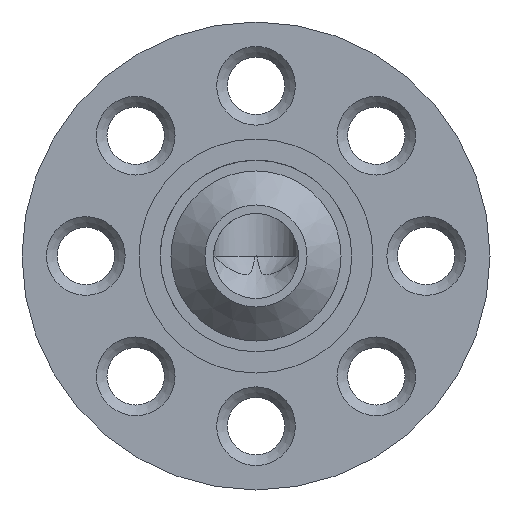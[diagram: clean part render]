
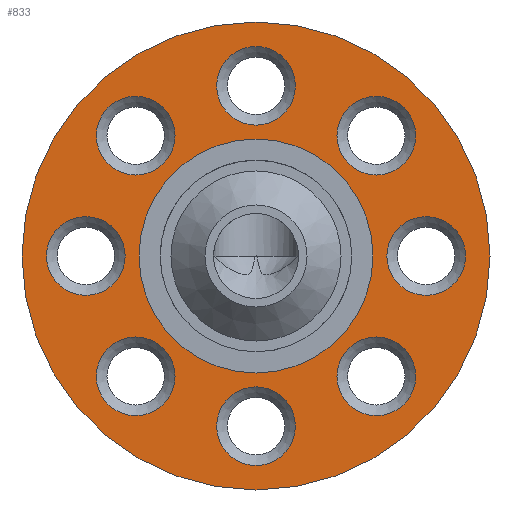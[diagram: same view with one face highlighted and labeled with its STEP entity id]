
A CAD part, front view. The second image highlights one B-rep face of the part: STEP entity #833.
In plain terms, the highlighted planar face has unit normal (0, -1, 0).
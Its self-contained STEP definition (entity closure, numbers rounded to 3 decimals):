
#119=ORIENTED_EDGE('',*,*,#229,.T.);
#120=ORIENTED_EDGE('',*,*,#230,.T.);
#121=ORIENTED_EDGE('',*,*,#231,.T.);
#122=ORIENTED_EDGE('',*,*,#232,.T.);
#123=ORIENTED_EDGE('',*,*,#233,.T.);
#124=ORIENTED_EDGE('',*,*,#234,.T.);
#125=ORIENTED_EDGE('',*,*,#235,.T.);
#126=ORIENTED_EDGE('',*,*,#236,.T.);
#127=ORIENTED_EDGE('',*,*,#205,.T.);
#128=ORIENTED_EDGE('',*,*,#202,.T.);
#202=EDGE_CURVE('',#262,#262,#319,.T.);
#205=EDGE_CURVE('',#265,#265,#322,.T.);
#229=EDGE_CURVE('',#288,#288,#333,.T.);
#230=EDGE_CURVE('',#289,#289,#334,.T.);
#231=EDGE_CURVE('',#290,#290,#335,.T.);
#232=EDGE_CURVE('',#291,#291,#336,.T.);
#233=EDGE_CURVE('',#292,#292,#337,.T.);
#234=EDGE_CURVE('',#293,#293,#338,.T.);
#235=EDGE_CURVE('',#294,#294,#339,.T.);
#236=EDGE_CURVE('',#295,#295,#340,.T.);
#262=VERTEX_POINT('',#1149);
#265=VERTEX_POINT('',#1157);
#288=VERTEX_POINT('',#1292);
#289=VERTEX_POINT('',#1294);
#290=VERTEX_POINT('',#1296);
#291=VERTEX_POINT('',#1298);
#292=VERTEX_POINT('',#1300);
#293=VERTEX_POINT('',#1302);
#294=VERTEX_POINT('',#1304);
#295=VERTEX_POINT('',#1306);
#319=CIRCLE('',#875,11.);
#322=CIRCLE('',#880,5.5);
#333=CIRCLE('',#905,1.85);
#334=CIRCLE('',#906,1.85);
#335=CIRCLE('',#907,1.85);
#336=CIRCLE('',#908,1.85);
#337=CIRCLE('',#909,1.85);
#338=CIRCLE('',#910,1.85);
#339=CIRCLE('',#911,1.85);
#340=CIRCLE('',#912,1.85);
#387=EDGE_LOOP('',(#119));
#388=EDGE_LOOP('',(#120));
#389=EDGE_LOOP('',(#121));
#390=EDGE_LOOP('',(#122));
#391=EDGE_LOOP('',(#123));
#392=EDGE_LOOP('',(#124));
#393=EDGE_LOOP('',(#125));
#394=EDGE_LOOP('',(#126));
#395=EDGE_LOOP('',(#127));
#396=EDGE_LOOP('',(#128));
#480=FACE_BOUND('',#387,.T.);
#481=FACE_BOUND('',#388,.T.);
#482=FACE_BOUND('',#389,.T.);
#483=FACE_BOUND('',#390,.T.);
#484=FACE_BOUND('',#391,.T.);
#485=FACE_BOUND('',#392,.T.);
#486=FACE_BOUND('',#393,.T.);
#487=FACE_BOUND('',#394,.T.);
#488=FACE_BOUND('',#395,.T.);
#489=FACE_BOUND('',#396,.T.);
#541=PLANE('',#904);
#833=ADVANCED_FACE('',(#480,#481,#482,#483,#484,#485,#486,#487,#488,#489),
#541,.T.);
#875=AXIS2_PLACEMENT_3D('',#1148,#975,#976);
#880=AXIS2_PLACEMENT_3D('',#1156,#985,#986);
#904=AXIS2_PLACEMENT_3D('',#1290,#1033,#1034);
#905=AXIS2_PLACEMENT_3D('',#1291,#1035,#1036);
#906=AXIS2_PLACEMENT_3D('',#1293,#1037,#1038);
#907=AXIS2_PLACEMENT_3D('',#1295,#1039,#1040);
#908=AXIS2_PLACEMENT_3D('',#1297,#1041,#1042);
#909=AXIS2_PLACEMENT_3D('',#1299,#1043,#1044);
#910=AXIS2_PLACEMENT_3D('',#1301,#1045,#1046);
#911=AXIS2_PLACEMENT_3D('',#1303,#1047,#1048);
#912=AXIS2_PLACEMENT_3D('',#1305,#1049,#1050);
#975=DIRECTION('',(0.,-1.,0.));
#976=DIRECTION('',(1.,0.,0.));
#985=DIRECTION('',(0.,1.,0.));
#986=DIRECTION('',(1.,0.,0.));
#1033=DIRECTION('',(0.,-1.,0.));
#1034=DIRECTION('',(1.,0.,0.));
#1035=DIRECTION('',(0.,1.,0.));
#1036=DIRECTION('',(0.,0.,-1.));
#1037=DIRECTION('',(0.,1.,0.));
#1038=DIRECTION('',(0.,0.,-1.));
#1039=DIRECTION('',(0.,1.,0.));
#1040=DIRECTION('',(0.,0.,-1.));
#1041=DIRECTION('',(0.,1.,0.));
#1042=DIRECTION('',(0.,0.,-1.));
#1043=DIRECTION('',(0.,1.,0.));
#1044=DIRECTION('',(0.,0.,-1.));
#1045=DIRECTION('',(0.,1.,0.));
#1046=DIRECTION('',(0.,0.,-1.));
#1047=DIRECTION('',(0.,1.,0.));
#1048=DIRECTION('',(0.,0.,-1.));
#1049=DIRECTION('',(0.,1.,0.));
#1050=DIRECTION('',(0.,0.,-1.));
#1148=CARTESIAN_POINT('',(380.861,-79.988,56.367));
#1149=CARTESIAN_POINT('',(391.861,-79.988,56.367));
#1156=CARTESIAN_POINT('',(380.861,-79.988,56.367));
#1157=CARTESIAN_POINT('',(386.361,-79.988,56.367));
#1290=CARTESIAN_POINT('',(380.861,-79.988,56.367));
#1291=CARTESIAN_POINT('',(380.861,-79.988,48.367));
#1292=CARTESIAN_POINT('',(380.861,-79.988,46.517));
#1293=CARTESIAN_POINT('',(388.861,-79.988,56.367));
#1294=CARTESIAN_POINT('',(388.861,-79.988,54.517));
#1295=CARTESIAN_POINT('',(386.518,-79.988,50.71));
#1296=CARTESIAN_POINT('',(386.518,-79.988,48.86));
#1297=CARTESIAN_POINT('',(375.204,-79.988,50.71));
#1298=CARTESIAN_POINT('',(375.204,-79.988,48.86));
#1299=CARTESIAN_POINT('',(372.861,-79.988,56.367));
#1300=CARTESIAN_POINT('',(372.861,-79.988,54.517));
#1301=CARTESIAN_POINT('',(375.204,-79.988,62.023));
#1302=CARTESIAN_POINT('',(375.204,-79.988,60.173));
#1303=CARTESIAN_POINT('',(380.861,-79.988,64.367));
#1304=CARTESIAN_POINT('',(380.861,-79.988,62.517));
#1305=CARTESIAN_POINT('',(386.518,-79.988,62.023));
#1306=CARTESIAN_POINT('',(386.518,-79.988,60.173));
